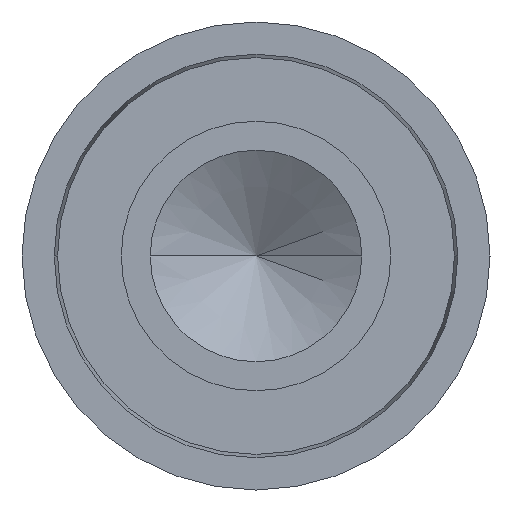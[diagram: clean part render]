
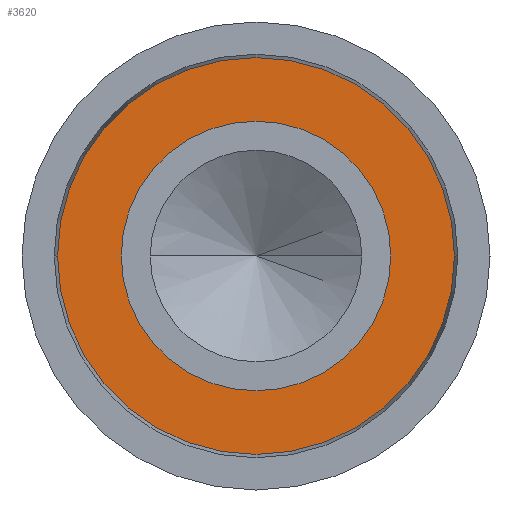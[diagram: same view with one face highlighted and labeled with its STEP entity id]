
A CAD part, left-side view. The second image highlights one B-rep face of the part: STEP entity #3620.
In plain terms, the highlighted planar face has unit normal (-1, 0, 0).
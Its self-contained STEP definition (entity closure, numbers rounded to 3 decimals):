
#2460=CARTESIAN_POINT('',(0.,1.829,0.));
#2470=VERTEX_POINT('',#2460);
#2560=CARTESIAN_POINT('',(0.,-1.829,0.));
#2570=VERTEX_POINT('',#2560);
#2600=CARTESIAN_POINT('',(0.,0.,0.)
);
#2610=DIRECTION('',(-1.,0.,0.));
#2620=DIRECTION('',(0.,1.,0.));
#2630=AXIS2_PLACEMENT_3D('',#2600,#2610,#2620);
#2640=CIRCLE('',#2630,1.829);
#2650=CARTESIAN_POINT('',(0.,0.,-1.829));
#2660=VERTEX_POINT('',#2650);
#2670=EDGE_CURVE('',#2660,#2570,#2640,.T.);
#2690=EDGE_CURVE('',#2470,#2660,#2640,.T.);
#3320=CARTESIAN_POINT('',(0.,-2.725,2.725));
#3330=DIRECTION('',(1.,0.,0.));
#3340=DIRECTION('',(0.,-1.,0.));
#3350=AXIS2_PLACEMENT_3D('',#3320,#3330,#3340);
#3360=PLANE('',#3350);
#3370=CARTESIAN_POINT('',(0.,0.,0.
));
#3380=DIRECTION('',(1.,-0.,-0.));
#3390=DIRECTION('',(0.,1.,0.));
#3400=AXIS2_PLACEMENT_3D('',#3370,#3380,#3390);
#3410=CIRCLE('',#3400,2.692);
#3420=CARTESIAN_POINT('',(0.,0.,
-2.692));
#3430=VERTEX_POINT('',#3420);
#3440=CARTESIAN_POINT('',(0.,2.692,0.));
#3450=VERTEX_POINT('',#3440);
#3460=EDGE_CURVE('',#3430,#3450,#3410,.T.);
#3470=ORIENTED_EDGE('',*,*,#3460,.F.);
#3480=CARTESIAN_POINT('',(0.,-2.692,0.));
#3490=VERTEX_POINT('',#3480);
#3500=EDGE_CURVE('',#3450,#3490,#3410,.T.);
#3510=ORIENTED_EDGE('',*,*,#3500,.F.);
#3520=EDGE_CURVE('',#3490,#3430,#3410,.T.);
#3530=ORIENTED_EDGE('',*,*,#3520,.F.);
#3540=EDGE_LOOP('',(#3530,#3510,#3470));
#3550=FACE_OUTER_BOUND('',#3540,.T.);
#3560=ORIENTED_EDGE('',*,*,#2670,.F.);
#3570=EDGE_CURVE('',#2570,#2470,#2640,.T.);
#3580=ORIENTED_EDGE('',*,*,#3570,.F.);
#3590=ORIENTED_EDGE('',*,*,#2690,.F.);
#3600=EDGE_LOOP('',(#3590,#3580,#3560));
#3610=FACE_BOUND('',#3600,.T.);
#3620=ADVANCED_FACE('',(#3550,#3610),#3360,.F.);
